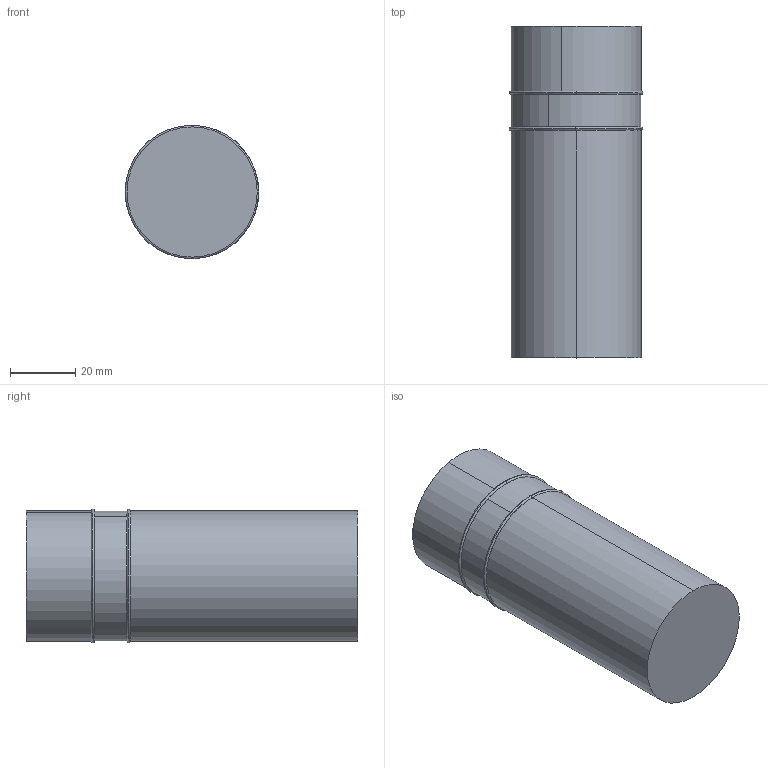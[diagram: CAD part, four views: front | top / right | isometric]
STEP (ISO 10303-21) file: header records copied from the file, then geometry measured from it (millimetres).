
FILE_DESCRIPTION (( 'STEP AP214' ), '1' );
FILE_NAME ('T0338.STEP', '2026-08-28T09:46:03', ( '' ), ( '' ), 'SwSTEP 2.0', 'SolidWorks 2023', '' );
FILE_SCHEMA (( 'AUTOMOTIVE_DESIGN' ));
Length unit declared in the file: millimetre
Products named in the file (5): PIEZA BASE 4.2; PIEZA BASE 4.1; PIEZA BASE 4.3; junta torica; T0338
Assembly tree (5 placements, depth 2):
  T0338
    PIEZA BASE 4.1
    junta torica  x2
    PIEZA BASE 4.2
    PIEZA BASE 4.3
Bounding box: 41.1 x 101.93 x 41.01 mm (x, y, z)
Volume: 124843.2 mm3; surface area: 21008.9 mm2
Topology: 5 solids, 5 shells, 23 faces, 40 edges, 24 vertices
Faces by surface type: cylinder 8, torus 8, plane 7
Entity records: 624 total; most frequent: DIRECTION 110, CARTESIAN_POINT 79, ORIENTED_EDGE 64, AXIS2_PLACEMENT_3D 51, EDGE_CURVE 32, CIRCLE 24, VERTEX_POINT 20, EDGE_LOOP 20
